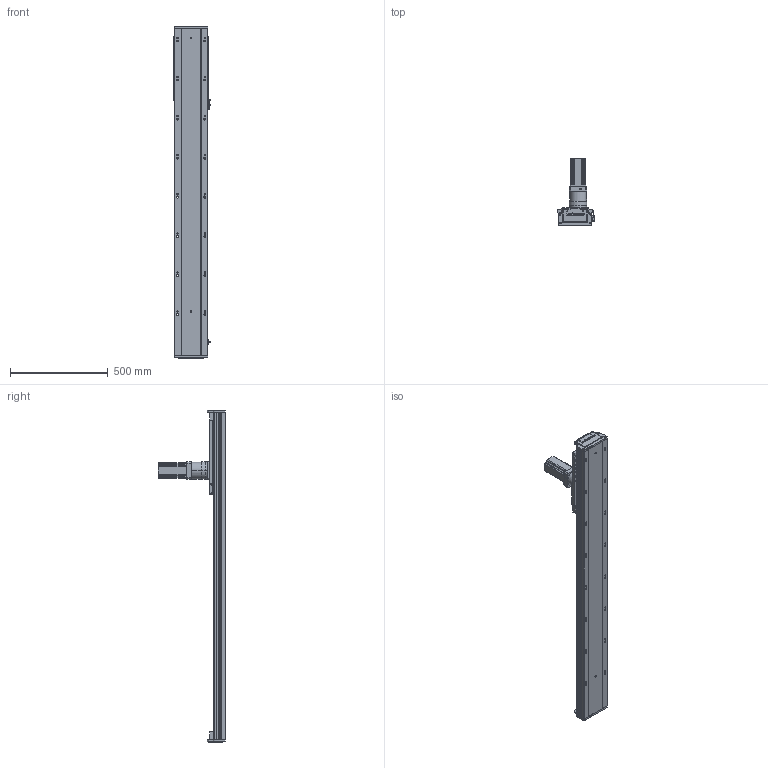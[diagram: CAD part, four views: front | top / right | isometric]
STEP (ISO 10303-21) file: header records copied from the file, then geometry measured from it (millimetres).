
FILE_DESCRIPTION (( 'STEP AP203' ), '1' );
FILE_NAME ('RY170-C-1000-UK.SLDASM_1200.step', '2021-03-03T00:46:26', ( '盈信电脑' ), ( '东莞市道滘镇水果街19号' ), 'SwSTEP 2.0', 'SolidWorks 2012', '' );
FILE_SCHEMA (( 'CONFIG_CONTROL_DESIGN' ));
Products named in the file (13): RY170-C-1000-UK.SLDASM_1200; 左旋斜齿齿轮_M2_22齿_内孔20; RY170-喘沭賑輸; RY170-喘沭滅袉蝶輸; TF080等撰; 怢湛750W萇儂ㄗ80遺ㄘ; RY170外置感应片(200共用）; RY170-喘謫萇儂覃誹啣; RY170-1000-喘沭耀郪絳寢EGH20CA_1200; 絳寢賑輸EGH20CA; 覜茼ん672; RY170綴裔啣ㄗ蜊秶ㄘ; RY170-1000齿条模组型材底座_1200
Assembly tree (22 placements, depth 2):
  RY170-C-1000-UK.SLDASM_1200
    RY170-1000齿条模组型材底座_1200
    絳寢賑輸EGH20CA  x6
    RY170-1000-喘沭耀郪絳寢EGH20CA_1200  x2
    RY170綴裔啣ㄗ蜊秶ㄘ  x2
    覜茼ん672  x3
    RY170外置感应片(200共用）
    RY170-喘謫萇儂覃誹啣
    怢湛750W萇儂ㄗ80遺ㄘ
    RY170-喘沭滅袉蝶輸  x2
    TF080等撰
    左旋斜齿齿轮_M2_22齿_内孔20
    RY170-喘沭賑輸
Bounding box: 188.7 x 343.5 x 1700 mm (x, y, z)
Volume: 10345320 mm3; surface area: 2474018.4 mm2
Topology: 24 solids, 24 shells, 3941 faces, 10846 edges, 6984 vertices
Faces by surface type: plane 1983, cylinder 1640, cone 264, bspline 50, torus 4
Entity records: 84638 total; most frequent: CARTESIAN_POINT 18800, ORIENTED_EDGE 13566, DIRECTION 13350, EDGE_CURVE 6783, AXIS2_PLACEMENT_3D 4863, VERTEX_POINT 4416, LINE 3624, VECTOR 3624
